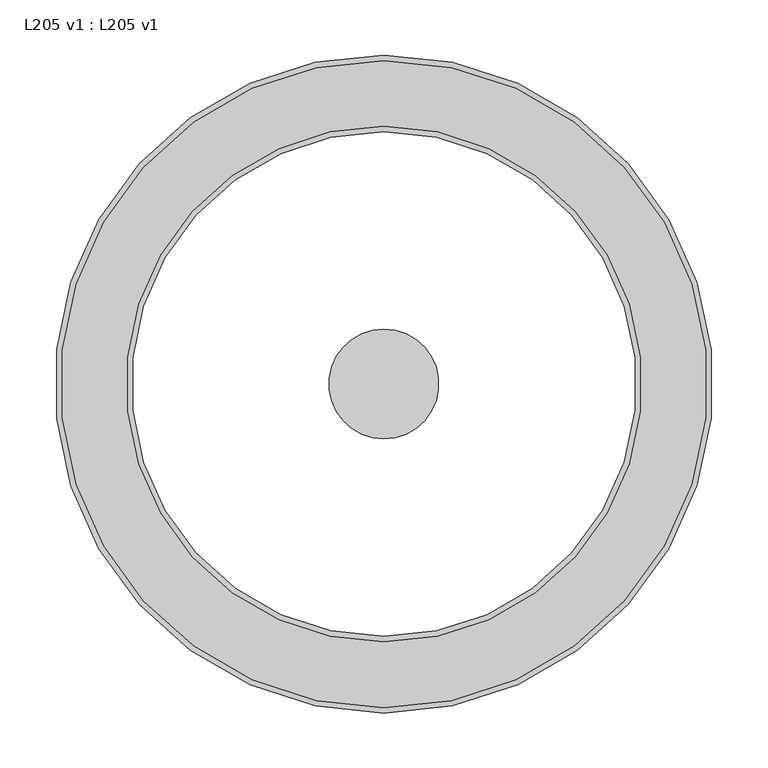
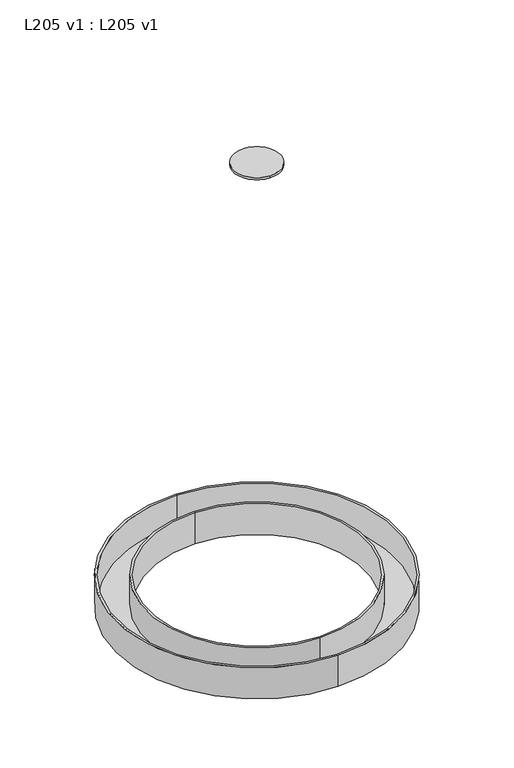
"""IFC4 building model written with IfcOpenShell, lengths in millimetres: light fixture geometry, L205 v1 : L205 v1."""

from ifc_helpers import new_model, si_unit, point, frame, origin, origin_2d, place, context, project, spatial, circle_curve, trimmed, segment, composite_curve, outline, extrude, source, transform, mapped, element, save


def l205_v1_l205_v1_696a9d75(model_context):
    return source(origin(), model_context, "Body", "SweptSolid", [
        extrude(outline(composite_curve([segment(trimmed(circle_curve(origin_2d(), 295.0), [point((0.0, -295.0))], [point((0.0, 295.0))], False, "CARTESIAN"), True, "CONTINUOUS"), segment(trimmed(circle_curve(origin_2d(), 295.0), [point((0.0, 295.0))], [point((0.0, -295.0))], False, "CARTESIAN"), True, "CONTINUOUS")], self_intersect=False), holes=[composite_curve([segment(trimmed(circle_curve(origin_2d(), 235.0), [point((0.0, -235.0))], [point((0.0, 235.0))], True, "CARTESIAN"), True, "CONTINUOUS"), segment(trimmed(circle_curve(origin_2d(), 235.0), [point((0.0, 235.0))], [point((0.0, -235.0))], True, "CARTESIAN"), True, "CONTINUOUS")], self_intersect=False)]), frame((0.0, 0.0, 2100.0), z_axis=(0.0, 0.0, 1.0), x_axis=(1.0, 0.0, 0.0)), (0.0, 0.0, 1.0), 5.0),
        extrude(outline(composite_curve([segment(trimmed(circle_curve(origin_2d(), 50.0), [point((0.0, -50.0))], [point((0.0, 50.0))], False, "CARTESIAN"), True, "CONTINUOUS"), segment(trimmed(circle_curve(origin_2d(), 50.0), [point((0.0, 50.0))], [point((0.0, -50.0))], False, "CARTESIAN"), True, "CONTINUOUS")], self_intersect=False)), frame((0.0, 0.0, 3095.0), z_axis=(0.0, 0.0, 1.0), x_axis=(1.0, 0.0, 0.0)), (0.0, 0.0, 1.0), 5.0),
        extrude(outline(composite_curve([segment(trimmed(circle_curve(origin_2d(), 300.0), [point((0.0, -300.0))], [point((0.0, 300.0))], False, "CARTESIAN"), True, "CONTINUOUS"), segment(trimmed(circle_curve(origin_2d(), 300.0), [point((0.0, 300.0))], [point((0.0, -300.0))], False, "CARTESIAN"), True, "CONTINUOUS")], self_intersect=False), holes=[composite_curve([segment(trimmed(circle_curve(origin_2d(), 295.0), [point((0.0, -295.0))], [point((0.0, 295.0))], True, "CARTESIAN"), True, "CONTINUOUS"), segment(trimmed(circle_curve(origin_2d(), 295.0), [point((0.0, 295.0))], [point((0.0, -295.0))], True, "CARTESIAN"), True, "CONTINUOUS")], self_intersect=False)]), frame((0.0, 0.0, 2100.0), z_axis=(0.0, 0.0, 1.0), x_axis=(1.0, 0.0, 0.0)), (0.0, 0.0, 1.0), 70.0),
        extrude(outline(composite_curve([segment(trimmed(circle_curve(origin_2d(), 235.0), [point((0.0, -235.0))], [point((0.0, 235.0))], False, "CARTESIAN"), True, "CONTINUOUS"), segment(trimmed(circle_curve(origin_2d(), 235.0), [point((0.0, 235.0))], [point((0.0, -235.0))], False, "CARTESIAN"), True, "CONTINUOUS")], self_intersect=False), holes=[composite_curve([segment(trimmed(circle_curve(origin_2d(), 230.0), [point((0.0, -230.0))], [point((0.0, 230.0))], True, "CARTESIAN"), True, "CONTINUOUS"), segment(trimmed(circle_curve(origin_2d(), 230.0), [point((0.0, 230.0))], [point((0.0, -230.0))], True, "CARTESIAN"), True, "CONTINUOUS")], self_intersect=False)]), frame((0.0, 0.0, 2100.0), z_axis=(0.0, 0.0, 1.0), x_axis=(1.0, 0.0, 0.0)), (0.0, 0.0, 1.0), 70.0),
    ])


if __name__ == "__main__":
    model = new_model("IFC4")
    model_context = context("Model", 3, world=origin())
    ifc_project = project(units=[si_unit("LENGTHUNIT", "METRE", prefix="MILLI")], contexts=[model_context])
    site = spatial("IfcSite", under=ifc_project)
    building = spatial("IfcBuilding", under=site)
    placement = place(None, origin())
    l205_v1_l205_v1_shape = l205_v1_l205_v1_696a9d75(model_context)
    element("IfcLightFixture", 1, ObjectType="L205 v1 : L205 v1", at=placement, inside=building, context=model_context, shape_type="MappedRepresentation", body=[
        mapped(l205_v1_l205_v1_shape, transform((0.0, 0.0, 0.0), x_axis=(1.0, 0.0, 0.0), y_axis=(0.0, 1.0, 0.0), z_axis=(0.0, 0.0, 1.0))),
    ])
    save(model, "model.ifc")
